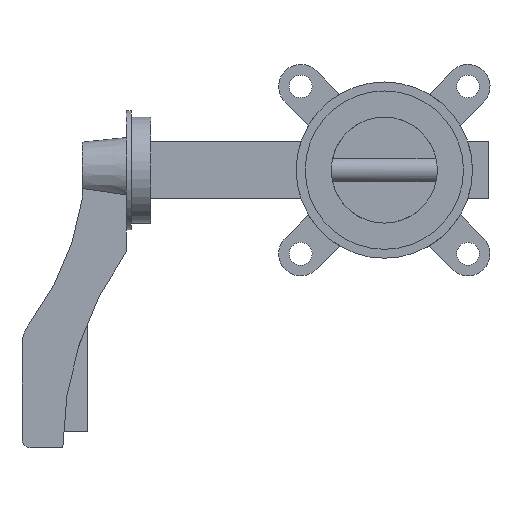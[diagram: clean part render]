
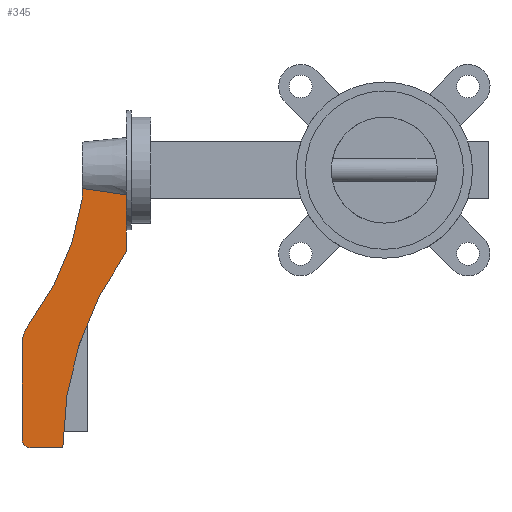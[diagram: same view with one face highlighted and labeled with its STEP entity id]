
A CAD part, left-side view. The second image highlights one B-rep face of the part: STEP entity #345.
In plain terms, the highlighted planar face has unit normal (-1, 0, 0).
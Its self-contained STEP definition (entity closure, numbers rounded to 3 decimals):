
#38 = CARTESIAN_POINT ( 'NONE',  ( -13., 185., -11.204 ) ) ;
#102 = EDGE_CURVE ( 'NONE', #748, #3733, #1615, .T. ) ;
#158 = DIRECTION ( 'NONE',  ( 0., 0., 1. ) ) ;
#243 = LINE ( 'NONE', #1587, #1017 ) ;
#345 = ADVANCED_FACE ( 'NONE', ( #1720 ), #1572, .T. ) ;
#347 = EDGE_LOOP ( 'NONE', ( #3151, #1328, #1505, #3667, #440, #4329, #3177, #1444, #633, #4347 ) ) ;
#352 = CARTESIAN_POINT ( 'NONE',  ( -13., 217.904, -94.839 ) ) ;
#370 = AXIS2_PLACEMENT_3D ( 'NONE', #4020, #2595, #3627 ) ;
#418 = DIRECTION ( 'NONE',  ( 1., 0., 0. ) ) ;
#436 = DIRECTION ( 'NONE',  ( 0., 1., 0. ) ) ;
#440 = ORIENTED_EDGE ( 'NONE', *, *, #2817, .F. ) ;
#515 = LINE ( 'NONE', #1898, #1935 ) ;
#633 = ORIENTED_EDGE ( 'NONE', *, *, #3717, .F. ) ;
#748 = VERTEX_POINT ( 'NONE', #3744 ) ;
#774 = VERTEX_POINT ( 'NONE', #1758 ) ;
#778 = AXIS2_PLACEMENT_3D ( 'NONE', #3269, #2978, #158 ) ;
#811 = CARTESIAN_POINT ( 'NONE',  ( -13., 176.012, -12.612 ) ) ;
#820 = VERTEX_POINT ( 'NONE', #3781 ) ;
#842 = LINE ( 'NONE', #1754, #3648 ) ;
#895 = CARTESIAN_POINT ( 'NONE',  ( -13., 180.509, -11.927 ) ) ;
#897 = CARTESIAN_POINT ( 'NONE',  ( -13., 222., -106.965 ) ) ;
#935 = VERTEX_POINT ( 'NONE', #3950 ) ;
#1017 = VECTOR ( 'NONE', #4335, 1000. ) ;
#1116 = VECTOR ( 'NONE', #1656, 1000. ) ;
#1226 = DIRECTION ( 'NONE',  ( 0., 0., 1. ) ) ;
#1328 = ORIENTED_EDGE ( 'NONE', *, *, #102, .F. ) ;
#1377 = AXIS2_PLACEMENT_3D ( 'NONE', #2177, #418, #1446 ) ;
#1423 = EDGE_CURVE ( 'NONE', #4234, #3249, #3672, .T. ) ;
#1427 = DIRECTION ( 'NONE',  ( 0., 0., -1. ) ) ;
#1444 = ORIENTED_EDGE ( 'NONE', *, *, #1423, .F. ) ;
#1446 = DIRECTION ( 'NONE',  ( 0., 0., -1. ) ) ;
#1505 = ORIENTED_EDGE ( 'NONE', *, *, #1852, .F. ) ;
#1526 = DIRECTION ( 'NONE',  ( -1., 0., 0. ) ) ;
#1545 = CARTESIAN_POINT ( 'NONE',  ( -13., 162.506, -14.575 ) ) ;
#1572 = PLANE ( 'NONE',  #778 ) ;
#1587 = CARTESIAN_POINT ( 'NONE',  ( -13., 158., -50. ) ) ;
#1615 = LINE ( 'NONE', #3768, #1116 ) ;
#1656 = DIRECTION ( 'NONE',  ( 0., 0., 1. ) ) ;
#1682 = CARTESIAN_POINT ( 'NONE',  ( -13., 353.092, 8.235 ) ) ;
#1703 = AXIS2_PLACEMENT_3D ( 'NONE', #4001, #1526, #1226 ) ;
#1720 = FACE_OUTER_BOUND ( 'NONE', #347, .T. ) ;
#1754 = CARTESIAN_POINT ( 'NONE',  ( -13., 158., -50. ) ) ;
#1758 = CARTESIAN_POINT ( 'NONE',  ( -13., 217., -170. ) ) ;
#1852 = EDGE_CURVE ( 'NONE', #2855, #748, #3895, .T. ) ;
#1898 = CARTESIAN_POINT ( 'NONE',  ( -13., 217., -170. ) ) ;
#1935 = VECTOR ( 'NONE', #436, 1000. ) ;
#2143 = EDGE_CURVE ( 'NONE', #820, #2855, #3482, .T. ) ;
#2177 = CARTESIAN_POINT ( 'NONE',  ( -13., 202., -106.965 ) ) ;
#2249 = EDGE_CURVE ( 'NONE', #774, #935, #4248, .T. ) ;
#2327 = EDGE_CURVE ( 'NONE', #3733, #4432, #3630, .T. ) ;
#2412 = VERTEX_POINT ( 'NONE', #3234 ) ;
#2492 = LINE ( 'NONE', #897, #4381 ) ;
#2595 = DIRECTION ( 'NONE',  ( 1., 0., 0. ) ) ;
#2788 = EDGE_CURVE ( 'NONE', #3249, #774, #515, .T. ) ;
#2817 = EDGE_CURVE ( 'NONE', #935, #820, #2492, .T. ) ;
#2855 = VERTEX_POINT ( 'NONE', #352 ) ;
#2978 = DIRECTION ( 'NONE',  ( -1., 0., 0. ) ) ;
#3141 = DIRECTION ( 'NONE',  ( 0., 0., -1. ) ) ;
#3140 = CARTESIAN_POINT ( 'NONE',  ( -13., 158., -15.199 ) ) ;
#3151 = ORIENTED_EDGE ( 'NONE', *, *, #2327, .F. ) ;
#3177 = ORIENTED_EDGE ( 'NONE', *, *, #2788, .F. ) ;
#3234 = CARTESIAN_POINT ( 'NONE',  ( -13., 158., -34.106 ) ) ;
#3249 = VERTEX_POINT ( 'NONE', #4299 ) ;
#3269 = CARTESIAN_POINT ( 'NONE',  ( -13., -7.115, -170. ) ) ;
#3279 = CARTESIAN_POINT ( 'NONE',  ( -13., 167.011, -13.937 ) ) ;
#3318 = DIRECTION ( 'NONE',  ( 0., 0., 1. ) ) ;
#3482 = CIRCLE ( 'NONE', #1377, 20. ) ;
#3499 = EDGE_CURVE ( 'NONE', #4432, #2412, #243, .T. ) ;
#3627 = DIRECTION ( 'NONE',  ( 0., 0., -1. ) ) ;
#3630 = B_SPLINE_CURVE_WITH_KNOTS ( 'NONE', 3,
 ( #38, #895, #811, #3279, #1545, #3140 ),
 .UNSPECIFIED., .F., .F.,
 ( 4, 2, 4 ),
 ( 0.012, 0.025, 0.039 ),
 .UNSPECIFIED. ) ;
#3648 = VECTOR ( 'NONE', #1427, 1000. ) ;
#3667 = ORIENTED_EDGE ( 'NONE', *, *, #2143, .F. ) ;
#3672 = CIRCLE ( 'NONE', #1703, 204.115 ) ;
#3673 = CARTESIAN_POINT ( 'NONE',  ( -13., 185., -11.204 ) ) ;
#3717 = EDGE_CURVE ( 'NONE', #2412, #4234, #842, .T. ) ;
#3733 = VERTEX_POINT ( 'NONE', #3673 ) ;
#3744 = CARTESIAN_POINT ( 'NONE',  ( -13., 185., -17.162 ) ) ;
#3768 = CARTESIAN_POINT ( 'NONE',  ( -13., 185., 0. ) ) ;
#3781 = CARTESIAN_POINT ( 'NONE',  ( -13., 222., -106.965 ) ) ;
#3895 = CIRCLE ( 'NONE', #4450, 170. ) ;
#3950 = CARTESIAN_POINT ( 'NONE',  ( -13., 222., -165. ) ) ;
#4001 = CARTESIAN_POINT ( 'NONE',  ( -13., -7.115, -170. ) ) ;
#4020 = CARTESIAN_POINT ( 'NONE',  ( -13., 217., -165. ) ) ;
#4118 = CARTESIAN_POINT ( 'NONE',  ( -13., 158., -50. ) ) ;
#4132 = DIRECTION ( 'NONE',  ( -1., 0., 0. ) ) ;
#4213 = CARTESIAN_POINT ( 'NONE',  ( -13., 158., -15.199 ) ) ;
#4234 = VERTEX_POINT ( 'NONE', #4118 ) ;
#4248 = CIRCLE ( 'NONE', #370, 5. ) ;
#4299 = CARTESIAN_POINT ( 'NONE',  ( -13., 197., -170. ) ) ;
#4329 = ORIENTED_EDGE ( 'NONE', *, *, #2249, .F. ) ;
#4335 = DIRECTION ( 'NONE',  ( 0., 0., -1. ) ) ;
#4347 = ORIENTED_EDGE ( 'NONE', *, *, #3499, .F. ) ;
#4381 = VECTOR ( 'NONE', #3318, 1000. ) ;
#4432 = VERTEX_POINT ( 'NONE', #4213 ) ;
#4450 = AXIS2_PLACEMENT_3D ( 'NONE', #1682, #4132, #3141 ) ;
